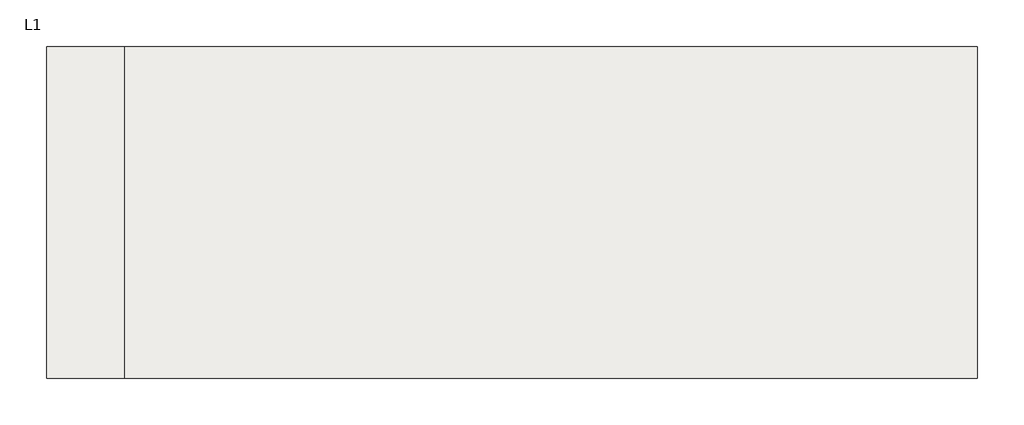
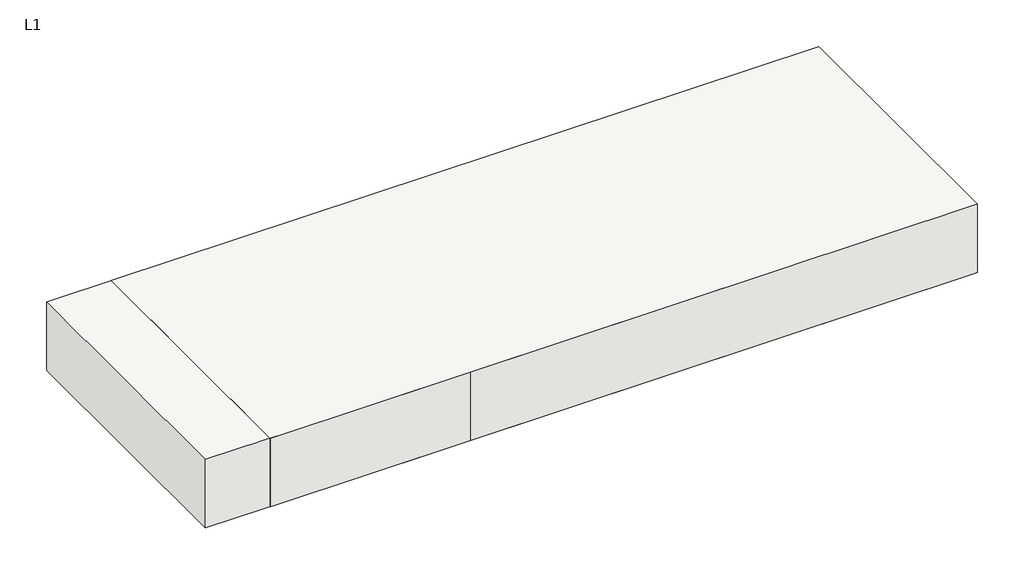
# One storey: 2 slabs.
"""IFC4 building model written with IfcOpenShell, lengths in millimetres."""

from ifc_helpers import new_model, si_unit, frame, origin, place, context, project, spatial, polyline, outline, extrude, element, save

model = new_model("IFC4")

# Units and contexts
model_context = context("Model", 3, world=origin())
ifc_project = project(units=[si_unit("LENGTHUNIT", "METRE", prefix="MILLI")], contexts=[model_context])

# Site, building, storey
site = spatial("IfcSite", under=ifc_project)
building = spatial("IfcBuilding", under=site)
storey = spatial("IfcBuildingStorey", under=building, Name="L1", Elevation=3000.0)

# Slabs
placement = place(None, origin())
element("IfcSlab", 1, ObjectType="DPG_Losa Principal Obra", at=placement, inside=storey, context=model_context, shape_type="SweptSolid", body=[
    extrude(outline(polyline([(7887.7202663, 15934.5302953), (7887.7202663, 14794.5302953), (5787.7202663, 14794.5302953), (4956.2475447, 14794.5302953), (4956.2475447, 15934.5302953), (7887.7202663, 15934.5302953)])), frame((0.0, 0.0, 2720.0), z_axis=(0.0, 0.0, 1.0), x_axis=(1.0, 0.0, 0.0)), (0.0, 0.0, 1.0), 300.0),
])
element("IfcSlab", 2, ObjectType="DPG_Losa Principal Obra", at=placement, inside=storey, context=model_context, shape_type="SweptSolid", body=[
    extrude(outline(polyline([(7887.7202663, 15934.5302953), (7887.7202663, 14794.5302953), (5287.7202663, 14794.5302953), (4687.7202663, 14794.5302953), (4687.7202663, 15934.5302953), (7887.7202663, 15934.5302953)])), frame((0.0, 0.0, 2720.0), z_axis=(0.0, 0.0, 1.0), x_axis=(1.0, 0.0, 0.0)), (0.0, 0.0, 1.0), 300.0),
])

save(model, "model.ifc")
